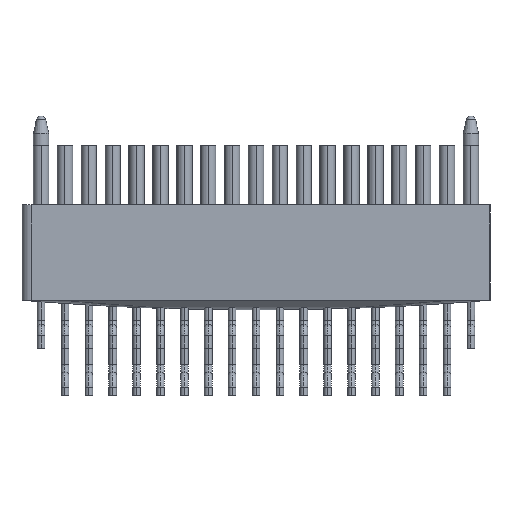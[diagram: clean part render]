
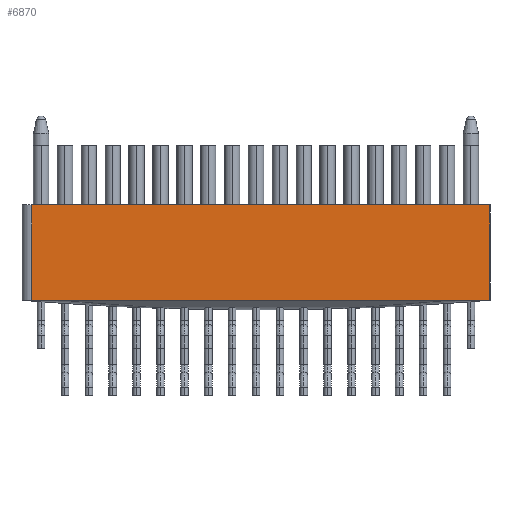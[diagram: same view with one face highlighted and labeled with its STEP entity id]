
A CAD part, front view. The second image highlights one B-rep face of the part: STEP entity #6870.
In plain terms, the highlighted planar face has unit normal (0, -1, 0).
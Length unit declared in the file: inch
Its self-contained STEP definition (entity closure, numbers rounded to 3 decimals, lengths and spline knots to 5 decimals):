
#389 = VERTEX_POINT ( 'NONE', #21557 ) ;
#1217 = VERTEX_POINT ( 'NONE', #4612 ) ;
#1589 = EDGE_CURVE ( 'NONE', #389, #5052, #10500, .T. ) ;
#1895 = AXIS2_PLACEMENT_3D ( 'NONE', #21325, #19346, #1927 ) ;
#1927 = DIRECTION ( 'NONE',  ( 0., 0., -1. ) ) ;
#2717 = VERTEX_POINT ( 'NONE', #13170 ) ;
#3635 = ORIENTED_EDGE ( 'NONE', *, *, #23425, .F. ) ;
#4003 = CARTESIAN_POINT ( 'NONE',  ( 0.245, -0.035, 0.05 ) ) ;
#4612 = CARTESIAN_POINT ( 'NONE',  ( 0.20198, -0.035, -0.05 ) ) ;
#4651 = EDGE_CURVE ( 'NONE', #389, #1217, #18169, .T. ) ;
#4732 = DIRECTION ( 'NONE',  ( 0., 0., 1. ) ) ;
#5052 = VERTEX_POINT ( 'NONE', #4003 ) ;
#5647 = CARTESIAN_POINT ( 'NONE',  ( -0.245, -0.035, -0.05 ) ) ;
#5799 = ORIENTED_EDGE ( 'NONE', *, *, #11100, .T. ) ;
#6016 = VECTOR ( 'NONE', #7953, 39.37008 ) ;
#6561 = ORIENTED_EDGE ( 'NONE', *, *, #7388, .F. ) ;
#6688 = VECTOR ( 'NONE', #19236, 39.37008 ) ;
#6870 = ADVANCED_FACE ( 'NONE', ( #20382 ), #13596, .T. ) ;
#7149 = LINE ( 'NONE', #20442, #11703 ) ;
#7388 = EDGE_CURVE ( 'NONE', #11273, #24817, #21584, .T. ) ;
#7953 = DIRECTION ( 'NONE',  ( -1., 0., 0. ) ) ;
#8200 = CARTESIAN_POINT ( 'NONE',  ( -0.20198, -0.035, -0.05 ) ) ;
#8309 = LINE ( 'NONE', #23726, #23188 ) ;
#10151 = DIRECTION ( 'NONE',  ( 1., 0., 0. ) ) ;
#10500 = LINE ( 'NONE', #16465, #22045 ) ;
#10682 = LINE ( 'NONE', #24845, #24325 ) ;
#11100 = EDGE_CURVE ( 'NONE', #2717, #24817, #7149, .T. ) ;
#11239 = ORIENTED_EDGE ( 'NONE', *, *, #17431, .F. ) ;
#11273 = VERTEX_POINT ( 'NONE', #8200 ) ;
#11301 = DIRECTION ( 'NONE',  ( -1., 0., 0. ) ) ;
#11703 = VECTOR ( 'NONE', #24340, 39.37008 ) ;
#11788 = CARTESIAN_POINT ( 'NONE',  ( -0.245, -0.035, -0.05 ) ) ;
#13170 = CARTESIAN_POINT ( 'NONE',  ( -0.235, -0.035, 0.05 ) ) ;
#13596 = PLANE ( 'NONE',  #1895 ) ;
#16465 = CARTESIAN_POINT ( 'NONE',  ( 0.245, -0.035, -0.05 ) ) ;
#17431 = EDGE_CURVE ( 'NONE', #2717, #5052, #8309, .T. ) ;
#18169 = LINE ( 'NONE', #11788, #6016 ) ;
#19236 = DIRECTION ( 'NONE',  ( -1., 0., 0. ) ) ;
#19346 = DIRECTION ( 'NONE',  ( 0., -1., 0. ) ) ;
#19906 = EDGE_LOOP ( 'NONE', ( #20553, #22869, #11239, #5799, #6561, #3635 ) ) ;
#20382 = FACE_OUTER_BOUND ( 'NONE', #19906, .T. ) ;
#20442 = CARTESIAN_POINT ( 'NONE',  ( -0.235, -0.035, -0.05 ) ) ;
#20553 = ORIENTED_EDGE ( 'NONE', *, *, #4651, .F. ) ;
#21325 = CARTESIAN_POINT ( 'NONE',  ( -0.245, -0.035, -0.05 ) ) ;
#21557 = CARTESIAN_POINT ( 'NONE',  ( 0.245, -0.035, -0.05 ) ) ;
#21584 = LINE ( 'NONE', #5647, #6688 ) ;
#22045 = VECTOR ( 'NONE', #4732, 39.37008 ) ;
#22562 = CARTESIAN_POINT ( 'NONE',  ( -0.235, -0.035, -0.05 ) ) ;
#22869 = ORIENTED_EDGE ( 'NONE', *, *, #1589, .T. ) ;
#23188 = VECTOR ( 'NONE', #10151, 39.37008 ) ;
#23425 = EDGE_CURVE ( 'NONE', #1217, #11273, #10682, .T. ) ;
#23726 = CARTESIAN_POINT ( 'NONE',  ( -0.245, -0.035, 0.05 ) ) ;
#24325 = VECTOR ( 'NONE', #11301, 39.37008 ) ;
#24340 = DIRECTION ( 'NONE',  ( 0., 0., -1. ) ) ;
#24817 = VERTEX_POINT ( 'NONE', #22562 ) ;
#24845 = CARTESIAN_POINT ( 'NONE',  ( -0.245, -0.035, -0.05 ) ) ;
